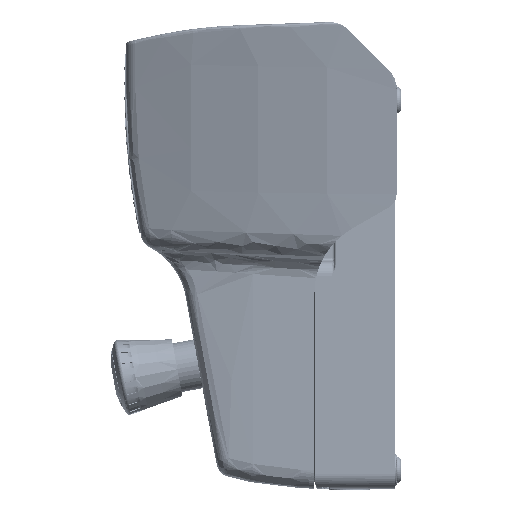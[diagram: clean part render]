
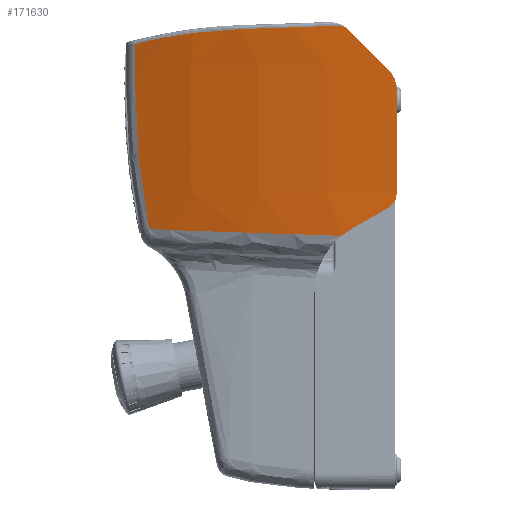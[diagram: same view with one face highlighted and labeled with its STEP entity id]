
A CAD part, left-side view. The second image highlights one B-rep face of the part: STEP entity #171630.
In plain terms, the highlighted face is a extrusion surface.
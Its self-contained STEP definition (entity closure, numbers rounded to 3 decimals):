
#27105=CARTESIAN_POINT('',(-127.624,28.407,
-84.603));
#27206=CARTESIAN_POINT('',(-104.39,131.545,
-80.624));
#28258=CARTESIAN_POINT('',(-136.524,-1.,-6.213));
#28259=CARTESIAN_POINT('',(-136.618,-1.,-5.229));
#28260=CARTESIAN_POINT('',(-136.805,-0.806,
-3.263));
#28261=CARTESIAN_POINT('',(-137.07,0.056,
-0.428));
#28262=CARTESIAN_POINT('',(-137.303,1.452,
2.181));
#28263=CARTESIAN_POINT('',(-137.429,2.701,
3.701));
#28264=CARTESIAN_POINT('',(-137.481,3.393,
4.393));
#28269=DIRECTION('',(0.096,0.,-0.995));
#28270=VECTOR('',#28269,56.426);
#28271=CARTESIAN_POINT('',(-136.524,-1.,-6.213));
#28272=LINE('',#28271,#28270);
#28276=CARTESIAN_POINT('',(-130.413,3.,-69.309));
#28277=CARTESIAN_POINT('',(-130.458,2.396,
-68.961));
#28278=CARTESIAN_POINT('',(-130.558,1.28,
-68.105));
#28279=CARTESIAN_POINT('',(-130.734,-0.006,
-66.43));
#28280=CARTESIAN_POINT('',(-130.929,-0.816,
-64.477));
#28281=CARTESIAN_POINT('',(-131.064,-1.,-63.08));
#28282=CARTESIAN_POINT('',(-131.131,-1.,-62.381));
#28287=CARTESIAN_POINT('',(-128.408,23.,
-80.856));
#28288=CARTESIAN_POINT('',(-128.689,20.779,
-79.574));
#28289=CARTESIAN_POINT('',(-129.213,16.337,
-77.009));
#28290=CARTESIAN_POINT('',(-129.882,9.668,
-73.159));
#28291=CARTESIAN_POINT('',(-130.249,5.223,
-70.593));
#28292=CARTESIAN_POINT('',(-130.413,3.,-69.309));
#28297=CARTESIAN_POINT('',(-127.624,28.407,
-84.603));
#28298=CARTESIAN_POINT('',(-127.717,27.841,
-84.137));
#28299=CARTESIAN_POINT('',(-127.9,26.683,
-83.237));
#28300=CARTESIAN_POINT('',(-128.163,24.878,
-81.987));
#28301=CARTESIAN_POINT('',(-128.328,23.632,
-81.222));
#28302=CARTESIAN_POINT('',(-128.408,23.,
-80.856));
#28307=CARTESIAN_POINT('',(-108.62,119.639,
-81.562));
#28308=CARTESIAN_POINT('',(-111.969,109.819,
-81.885));
#28309=CARTESIAN_POINT('',(-117.859,89.902,
-82.543));
#28310=CARTESIAN_POINT('',(-124.216,59.385,
-83.561));
#28311=CARTESIAN_POINT('',(-126.772,38.758,
-84.254));
#28312=CARTESIAN_POINT('',(-127.624,28.407,
-84.603));
#28317=CARTESIAN_POINT('',(-104.39,131.545,
-80.624));
#28318=CARTESIAN_POINT('',(-104.88,130.22,
-80.79));
#28319=CARTESIAN_POINT('',(-105.846,127.572,
-81.08));
#28320=CARTESIAN_POINT('',(-107.258,123.598,
-81.392));
#28321=CARTESIAN_POINT('',(-108.171,120.958,
-81.519));
#28322=CARTESIAN_POINT('',(-108.62,119.639,
-81.562));
#28327=CARTESIAN_POINT('',(-108.681,138.999,
-5.335));
#28328=CARTESIAN_POINT('',(-107.877,138.999,
-13.71));
#28329=CARTESIAN_POINT('',(-106.492,138.453,
-30.455));
#28330=CARTESIAN_POINT('',(-105.072,135.967,
-55.659));
#28331=CARTESIAN_POINT('',(-104.553,133.206,
-72.316));
#28332=CARTESIAN_POINT('',(-104.39,131.545,
-80.624));
#28337=DIRECTION('',(0.096,0.,-0.995));
#28338=VECTOR('',#28337,23.701);
#28339=CARTESIAN_POINT('',(-110.946,138.999,
18.258));
#28340=LINE('',#28339,#28338);
#28344=CARTESIAN_POINT('',(-129.559,82.93,
26.12));
#28345=CARTESIAN_POINT('',(-128.068,89.184,
25.903));
#28346=CARTESIAN_POINT('',(-124.71,101.696,
25.037));
#28347=CARTESIAN_POINT('',(-118.506,120.442,
22.419));
#28348=CARTESIAN_POINT('',(-113.596,132.836,
19.793));
#28349=CARTESIAN_POINT('',(-110.946,138.999,
18.258));
#28354=CARTESIAN_POINT('',(-138.487,27.82,
28.03));
#28355=CARTESIAN_POINT('',(-137.947,34.003,
27.815));
#28356=CARTESIAN_POINT('',(-136.563,46.343,
27.387));
#28357=CARTESIAN_POINT('',(-133.584,64.736,
26.75));
#28358=CARTESIAN_POINT('',(-130.999,76.888,
26.329));
#28359=CARTESIAN_POINT('',(-129.559,82.93,
26.12));
#28364=CARTESIAN_POINT('',(-138.51,24.557,
25.557));
#28365=CARTESIAN_POINT('',(-138.516,24.88,
25.88));
#28366=CARTESIAN_POINT('',(-138.524,25.555,
26.496));
#28367=CARTESIAN_POINT('',(-138.516,26.647,
27.324));
#28368=CARTESIAN_POINT('',(-138.499,27.423,
27.807));
#28369=CARTESIAN_POINT('',(-138.487,27.82,
28.03));
#28374=CARTESIAN_POINT('',(-137.481,3.393,
4.393));
#28375=CARTESIAN_POINT('',(-137.662,5.749,
6.749));
#28376=CARTESIAN_POINT('',(-137.978,10.457,
11.457));
#28377=CARTESIAN_POINT('',(-138.321,17.515,
18.515));
#28378=CARTESIAN_POINT('',(-138.461,22.211,
23.211));
#28379=CARTESIAN_POINT('',(-138.51,24.557,
25.557));
#32647=CARTESIAN_POINT('',(-110.946,138.999,
18.258));
#149801=VERTEX_POINT('',#27105);
#149804=VERTEX_POINT('',#28307);
#149805=VERTEX_POINT('',#28302);
#149846=VERTEX_POINT('',#27206);
#149848=VERTEX_POINT('',#28327);
#150224=CARTESIAN_POINT('',(-130.413,3.,-69.309));
#150225=VERTEX_POINT('',#150224);
#150226=VERTEX_POINT('',#28282);
#150306=VERTEX_POINT('',#28364);
#150307=VERTEX_POINT('',#28369);
#150906=CARTESIAN_POINT('',(-136.524,-1.,-6.213));
#150908=VERTEX_POINT('',#150906);
#150918=VERTEX_POINT('',#28264);
#150975=VERTEX_POINT('',#32647);
#150977=VERTEX_POINT('',#28344);
#171593=CARTESIAN_POINT('',(-111.79,140.329,
32.708));
#171594=CARTESIAN_POINT('',(-115.964,130.071,
32.307));
#171595=CARTESIAN_POINT('',(-123.871,107.925,
31.548));
#171596=CARTESIAN_POINT('',(-132.794,73.099,
30.692));
#171597=CARTESIAN_POINT('',(-138.5,36.247,
30.144));
#171598=CARTESIAN_POINT('',(-139.929,10.935,
30.007));
#171599=CARTESIAN_POINT('',(-140.007,-1.957,
29.999));
#171600=CARTESIAN_POINT('',(-140.009,-2.436,
29.999));
#171605=DIRECTION('',(0.096,0.,-0.995));
#171606=VECTOR('',#171605,1.);
#171607=SURFACE_OF_LINEAR_EXTRUSION('',#171601,#171606);
#171608=ORIENTED_EDGE('',*,*,#171496,.F.);
#171609=ORIENTED_EDGE('',*,*,#171467,.T.);
#171611=ORIENTED_EDGE('',*,*,#171610,.F.);
#171613=ORIENTED_EDGE('',*,*,#171612,.F.);
#171614=ORIENTED_EDGE('',*,*,#169697,.F.);
#171615=ORIENTED_EDGE('',*,*,#169833,.F.);
#171616=ORIENTED_EDGE('',*,*,#169875,.F.);
#171618=ORIENTED_EDGE('',*,*,#171617,.F.);
#171620=ORIENTED_EDGE('',*,*,#171619,.F.);
#171622=ORIENTED_EDGE('',*,*,#171621,.F.);
#171624=ORIENTED_EDGE('',*,*,#171623,.F.);
#171626=ORIENTED_EDGE('',*,*,#171625,.F.);
#171627=ORIENTED_EDGE('',*,*,#171569,.F.);
#171628=EDGE_LOOP('',(#171608,#171609,#171611,#171613,#171614,#171615,#171616,
#171618,#171620,#171622,#171624,#171626,#171627));
#171629=FACE_OUTER_BOUND('',#171628,.F.);
#28265=B_SPLINE_CURVE_WITH_KNOTS('',3,(#28258,#28259,#28260,#28261,#28262,
#28263,#28264),.UNSPECIFIED.,.F.,.F.,(4,1,1,1,4),(0.,0.25,0.5,0.75,
1.),.UNSPECIFIED.);
#28283=B_SPLINE_CURVE_WITH_KNOTS('',3,(#28276,#28277,#28278,#28279,#28280,
#28281,#28282),.UNSPECIFIED.,.F.,.F.,(4,1,1,1,4),(0.,0.25,0.5,0.75,
1.),.UNSPECIFIED.);
#28293=B_SPLINE_CURVE_WITH_KNOTS('',3,(#28287,#28288,#28289,#28290,#28291,
#28292),.UNSPECIFIED.,.F.,.F.,(4,1,1,4),(0.,0.333,
0.667,1.),.UNSPECIFIED.);
#28303=B_SPLINE_CURVE_WITH_KNOTS('',3,(#28297,#28298,#28299,#28300,#28301,
#28302),.UNSPECIFIED.,.F.,.F.,(4,1,1,4),(0.,0.333,
0.667,1.),.UNSPECIFIED.);
#28313=B_SPLINE_CURVE_WITH_KNOTS('',3,(#28307,#28308,#28309,#28310,#28311,
#28312),.UNSPECIFIED.,.F.,.F.,(4,1,1,4),(0.,0.333,
0.667,1.),.UNSPECIFIED.);
#28323=B_SPLINE_CURVE_WITH_KNOTS('',3,(#28317,#28318,#28319,#28320,#28321,
#28322),.UNSPECIFIED.,.F.,.F.,(4,1,1,4),(0.,0.333,
0.667,1.),.UNSPECIFIED.);
#28333=B_SPLINE_CURVE_WITH_KNOTS('',3,(#28327,#28328,#28329,#28330,#28331,
#28332),.UNSPECIFIED.,.F.,.F.,(4,1,1,4),(0.,0.333,
0.667,1.),.UNSPECIFIED.);
#28350=B_SPLINE_CURVE_WITH_KNOTS('',3,(#28344,#28345,#28346,#28347,#28348,
#28349),.UNSPECIFIED.,.F.,.F.,(4,1,1,4),(0.,0.333,
0.667,1.),.UNSPECIFIED.);
#28360=B_SPLINE_CURVE_WITH_KNOTS('',3,(#28354,#28355,#28356,#28357,#28358,
#28359),.UNSPECIFIED.,.F.,.F.,(4,1,1,4),(0.,0.333,
0.667,1.),.UNSPECIFIED.);
#28370=B_SPLINE_CURVE_WITH_KNOTS('',3,(#28364,#28365,#28366,#28367,#28368,
#28369),.UNSPECIFIED.,.F.,.F.,(4,1,1,4),(0.,0.333,
0.667,1.),.UNSPECIFIED.);
#28380=B_SPLINE_CURVE_WITH_KNOTS('',3,(#28374,#28375,#28376,#28377,#28378,
#28379),.UNSPECIFIED.,.F.,.F.,(4,1,1,4),(0.,0.333,
0.667,1.),.UNSPECIFIED.);
#169697=EDGE_CURVE('',#149801,#149805,#28303,.T.);
#169833=EDGE_CURVE('',#149804,#149801,#28313,.T.);
#169875=EDGE_CURVE('',#149846,#149804,#28323,.T.);
#171467=EDGE_CURVE('',#150908,#150226,#28272,.T.);
#171496=EDGE_CURVE('',#150908,#150918,#28265,.T.);
#171569=EDGE_CURVE('',#150918,#150306,#28380,.T.);
#171601=B_SPLINE_CURVE_WITH_KNOTS('',3,(#171593,#171594,#171595,#171596,#171597,
#171598,#171599,#171600),.UNSPECIFIED.,.F.,.F.,(4,1,1,1,1,4),(0.,
0.227,0.482,0.736,0.99,1.),
.UNSPECIFIED.);
#171610=EDGE_CURVE('',#150225,#150226,#28283,.T.);
#171612=EDGE_CURVE('',#149805,#150225,#28293,.T.);
#171617=EDGE_CURVE('',#149848,#149846,#28333,.T.);
#171619=EDGE_CURVE('',#150975,#149848,#28340,.T.);
#171621=EDGE_CURVE('',#150977,#150975,#28350,.T.);
#171623=EDGE_CURVE('',#150307,#150977,#28360,.T.);
#171625=EDGE_CURVE('',#150306,#150307,#28370,.T.);
#171630=ADVANCED_FACE('',(#171629),#171607,.F.);
